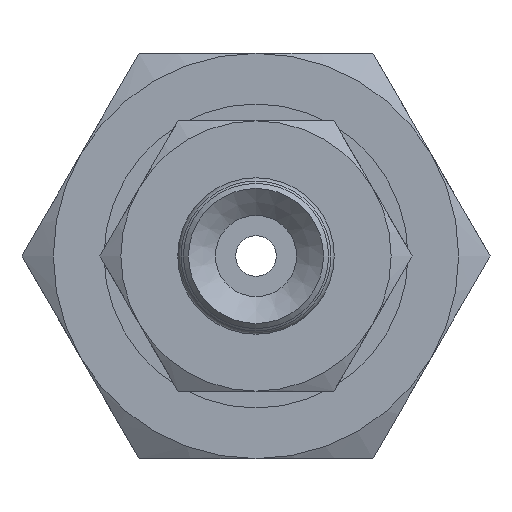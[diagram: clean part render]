
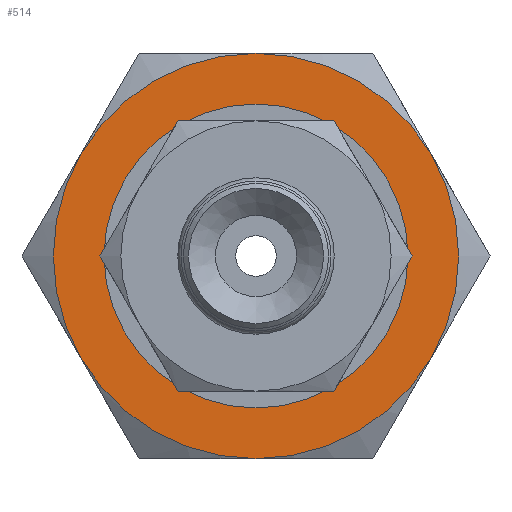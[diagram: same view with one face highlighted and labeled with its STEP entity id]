
A CAD part, front view. The second image highlights one B-rep face of the part: STEP entity #514.
In plain terms, the highlighted planar face has unit normal (0, -1, 0) as drawn and (-1, 0, 0) by its records, which use the part's own axes.
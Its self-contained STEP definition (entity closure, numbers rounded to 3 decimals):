
#514=ADVANCED_FACE('',(#745,#746),#747,.F.);
#745=FACE_BOUND('',#1119,.T.);
#746=FACE_OUTER_BOUND('',#1120,.T.);
#747=PLANE('',#1121);
#1119=EDGE_LOOP('',(#1984));
#1120=EDGE_LOOP('',(#1985,#1986,#1987,#1988,#1989,#1990));
#1121=AXIS2_PLACEMENT_3D('',#1991,#1992,#1993);
#1984=ORIENTED_EDGE('',*,*,#2665,.T.);
#1985=ORIENTED_EDGE('',*,*,#2637,.F.);
#1986=ORIENTED_EDGE('',*,*,#2671,.F.);
#1987=ORIENTED_EDGE('',*,*,#2628,.F.);
#1988=ORIENTED_EDGE('',*,*,#2644,.F.);
#1989=ORIENTED_EDGE('',*,*,#2672,.F.);
#1990=ORIENTED_EDGE('',*,*,#2673,.F.);
#1991=CARTESIAN_POINT('',(0.,0.0,0.0));
#1992=DIRECTION('',(1.0,0.0,0.0));
#1993=DIRECTION('',(0.0,1.0,0.0));
#2628=EDGE_CURVE('',#2953,#2954,#2955,.T.);
#2637=EDGE_CURVE('',#2969,#2971,#2972,.T.);
#2644=EDGE_CURVE('',#2983,#2953,#2984,.T.);
#2665=EDGE_CURVE('',#3017,#3017,#3018,.T.);
#2671=EDGE_CURVE('',#2954,#2969,#3024,.T.);
#2672=EDGE_CURVE('',#3008,#2983,#3025,.T.);
#2673=EDGE_CURVE('',#2971,#3008,#3026,.T.);
#2953=VERTEX_POINT('',#3493);
#2954=VERTEX_POINT('',#3494);
#2955=CIRCLE('',#3495,6.0);
#2969=VERTEX_POINT('',#3561);
#2971=VERTEX_POINT('',#3573);
#2972=CIRCLE('',#3574,6.0);
#2983=VERTEX_POINT('',#3627);
#2984=CIRCLE('',#3628,6.0);
#3008=VERTEX_POINT('',#3774);
#3017=VERTEX_POINT('',#3803);
#3018=CIRCLE('',#3804,4.0);
#3024=CIRCLE('',#3810,6.0);
#3025=CIRCLE('',#3811,6.0);
#3026=CIRCLE('',#3812,6.0);
#3493=CARTESIAN_POINT('',(0.,-5.196,-3.0));
#3494=CARTESIAN_POINT('',(0.,0.0,-6.0));
#3495=AXIS2_PLACEMENT_3D('',#4442,#4443,#4444);
#3561=CARTESIAN_POINT('',(0.,5.196,-3.0));
#3573=CARTESIAN_POINT('',(0.,5.196,3.0));
#3574=AXIS2_PLACEMENT_3D('',#4447,#4448,#4449);
#3627=CARTESIAN_POINT('',(0.,-5.196,3.0));
#3628=AXIS2_PLACEMENT_3D('',#4452,#4453,#4454);
#3774=CARTESIAN_POINT('',(0.,0.0,6.0));
#3803=CARTESIAN_POINT('',(0.,0.0,-4.0));
#3804=AXIS2_PLACEMENT_3D('',#4469,#4470,#4471);
#3810=AXIS2_PLACEMENT_3D('',#4487,#4488,#4489);
#3811=AXIS2_PLACEMENT_3D('',#4490,#4491,#4492);
#3812=AXIS2_PLACEMENT_3D('',#4493,#4494,#4495);
#4442=CARTESIAN_POINT('',(0.,0.0,0.0));
#4443=DIRECTION('',(1.0,0.0,0.0));
#4444=DIRECTION('',(0.0,0.0,-1.0));
#4447=CARTESIAN_POINT('',(0.,0.0,0.0));
#4448=DIRECTION('',(1.0,0.0,0.0));
#4449=DIRECTION('',(0.0,0.0,-1.0));
#4452=CARTESIAN_POINT('',(0.,0.0,0.0));
#4453=DIRECTION('',(1.0,0.0,0.0));
#4454=DIRECTION('',(0.0,0.0,-1.0));
#4469=CARTESIAN_POINT('',(0.,0.0,0.0));
#4470=DIRECTION('',(1.0,0.0,0.0));
#4471=DIRECTION('',(0.0,0.0,-1.0));
#4487=CARTESIAN_POINT('',(0.,0.0,0.0));
#4488=DIRECTION('',(1.0,0.0,0.0));
#4489=DIRECTION('',(0.0,0.0,-1.0));
#4490=CARTESIAN_POINT('',(0.,0.0,0.0));
#4491=DIRECTION('',(1.0,0.0,0.0));
#4492=DIRECTION('',(0.0,0.0,-1.0));
#4493=CARTESIAN_POINT('',(0.,0.0,0.0));
#4494=DIRECTION('',(1.0,0.0,0.0));
#4495=DIRECTION('',(0.0,0.0,-1.0));
